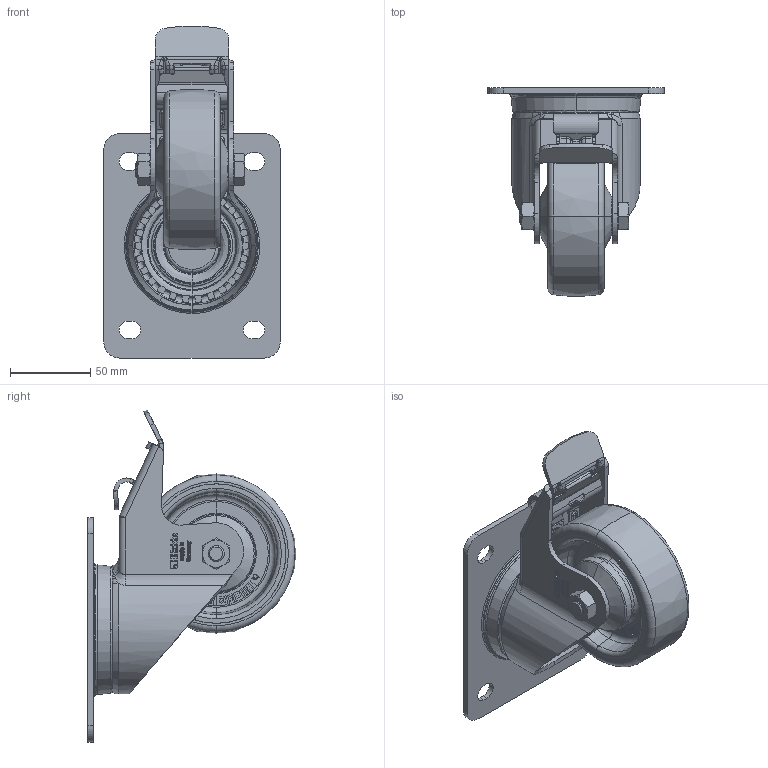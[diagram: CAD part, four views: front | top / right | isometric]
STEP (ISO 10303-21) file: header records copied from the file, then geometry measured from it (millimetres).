
FILE_DESCRIPTION (( 'STEP AP214' ), '1' );
FILE_NAME ('LK-POTH_100K-3-FI_655092-214.step', '2022-01-11T13:34:46', ( '' ), ( '' ), 'SwSTEP 2.0', 'SolidWorks 2018', '' );
FILE_SCHEMA (( 'AUTOMOTIVE_DESIGN' ));
Length unit declared in the file: millimetre
Products named in the file (5): LK-POTH_100K-3-FI_655092-214; POTH_3D_G16_POTH_100_10K_253609; POTH_100_10K_G16_3D; GH-LK_80-100_GH-LK-100x45-03-FIH_10x46; GH-LK-100x45-03-FIH_10x46_G16_3D
Assembly tree (4 placements, depth 3):
  LK-POTH_100K-3-FI_655092-214
    GH-LK_80-100_GH-LK-100x45-03-FIH_10x46
      GH-LK-100x45-03-FIH_10x46_G16_3D
    POTH_3D_G16_POTH_100_10K_253609
      POTH_100_10K_G16_3D
Bounding box: 110 x 129.89 x 207.04 mm (x, y, z)
Volume: 340231.1 mm3; surface area: 147199.7 mm2
Topology: 2 solids, 7 shells, 3003 faces, 8105 edges, 5262 vertices
Faces by surface type: plane 1232, bspline 1060, cylinder 464, cone 147, torus 100
Entity records: 119787 total; most frequent: CARTESIAN_POINT 47813, ORIENTED_EDGE 16170, DIRECTION 10648, EDGE_CURVE 8085, VERTEX_POINT 5262, LINE 3980, VECTOR 3980, AXIS2_PLACEMENT_3D 3334
